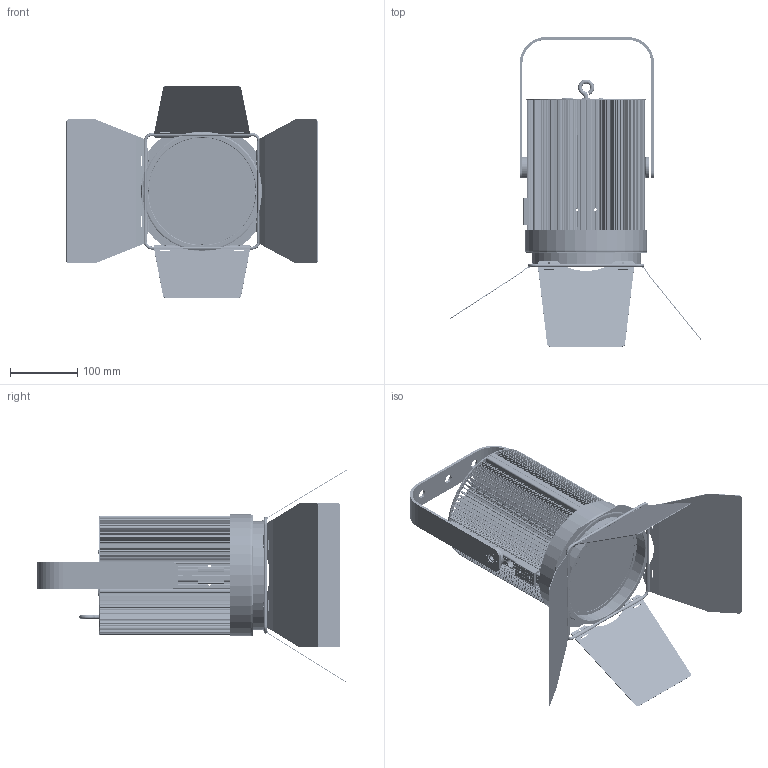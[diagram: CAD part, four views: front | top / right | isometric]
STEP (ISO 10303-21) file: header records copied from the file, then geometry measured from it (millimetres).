
FILE_DESCRIPTION (( 'STEP AP214' ), '1' );
FILE_NAME ('atmos 100t.STEP', '2025-04-02T00:52:14', ( '' ), ( '' ), 'SwSTEP 2.0', 'SolidWorks 2023', '' );
FILE_SCHEMA (( 'AUTOMOTIVE_DESIGN' ));
Length unit declared in the file: millimetre
Products named in the file (31): M3X4-0001^200W0001_ASM_CD-B_ASM_cd-b0626_asm(2)_cd-b0626_asm; 200W0001_ASM^CD-B_ASM_cd-b0626_asm(2)_cd-b0626_asm; 10001^200W0001_ASM_CD-B_ASM_cd-b0626_asm(2)_cd-b0626_asm; 0002^CD-B_ASM_cd-b0626_asm(2)_cd-b0626_asm; ZH-2__A___1^ZHZ-100__ASM_1_ASM_ZHZ-100__ASM_ASM_CD-B_ASM_cd-b0626_asm(2)_cd-b0626_asm; CL-TS_^CD-B_ASM_cd-b0626_asm(2)_cd-b0626_asm; M3X10-0001^200W0001_ASM_CD-B_ASM_cd-b0626_asm(2)_cd-b0626_asm; KL-X__^CD-B_ASM_cd-b0626_asm(2)_cd-b0626_asm; QGB-4_^CD-B_ASM_cd-b0626_asm(2)_cd-b0626_asm; ZHZ-100__ASM_1_ASM^ZHZ-100__ASM_ASM_CD-B_ASM_cd-b0626_asm(2)_cd-b0626_asm; K3-W_^CD-B_ASM_cd-b0626_asm(2)_cd-b0626_asm; DGB-Q__A___1^ZHZ-100__ASM_1_ASM_ZHZ-100__ASM_ASM_CD-B_ASM_cd-b0626_asm(2)_cd-b0626_asm; HK-18_^CD-B_ASM_cd-b0626_asm(2)_cd-b0626_asm; AA2_2_^CD-B_ASM_cd-b0626_asm(2)_cd-b0626_asm; 000-0^CD-B_ASM_cd-b0626_asm(2)_cd-b0626_asm; cd-b0626_asm(2)^cd-b0626_asm; LZ-48_^CD-B_ASM_cd-b0626_asm(2)_cd-b0626_asm; ZHZ-100__ASM_ASM^CD-B_ASM_cd-b0626_asm(2)_cd-b0626_asm; FZ-D__A___1^ZHZ-100__ASM_1_ASM_ZHZ-100__ASM_ASM_CD-B_ASM_cd-b0626_asm(2)_cd-b0626_asm; M3X12-0001^200W0001_ASM_CD-B_ASM_cd-b0626_asm(2)_cd-b0626_asm; TISHOU2^CD-B_ASM_cd-b0626_asm(2)_cd-b0626_asm; DT-0_^CD-B_ASM_cd-b0626_asm(2)_cd-b0626_asm; DH-6^CD-B_ASM_cd-b0626_asm(2)_cd-b0626_asm; CD-B_ASM^cd-b0626_asm(2)_cd-b0626_asm; ZH-3__A___1^ZHZ-100__ASM_1_ASM_ZHZ-100__ASM_ASM_CD-B_ASM_cd-b0626_asm(2)_cd-b0626_asm; LZ-24^CD-B_ASM_cd-b0626_asm(2)_cd-b0626_asm; eBom-FreeParts; TJ-2_^CD-B_ASM_cd-b0626_asm(2)_cd-b0626_asm; JQ-44^CD-B_ASM_cd-b0626_asm(2)_cd-b0626_asm; atmos 100t; 000^CD-B_ASM_cd-b0626_asm(2)_cd-b0626_asm
Assembly tree (44 placements, depth 6):
  eBom-FreeParts
  atmos 100t
    cd-b0626_asm(2)^cd-b0626_asm
      CD-B_ASM^cd-b0626_asm(2)_cd-b0626_asm
        ZHZ-100__ASM_ASM^CD-B_ASM_cd-b0626_asm(2)_cd-b0626_asm
          ZHZ-100__ASM_1_ASM^ZHZ-100__ASM_ASM_CD-B_ASM_cd-b0626_asm(2)_cd-b0626_asm
            DGB-Q__A___1^ZHZ-100__ASM_1_ASM_ZHZ-100__ASM_ASM_CD-B_ASM_cd-b0626_asm(2)_cd-b0626_asm
            FZ-D__A___1^ZHZ-100__ASM_1_ASM_ZHZ-100__ASM_ASM_CD-B_ASM_cd-b0626_asm(2)_cd-b0626_asm
            ZH-2__A___1^ZHZ-100__ASM_1_ASM_ZHZ-100__ASM_ASM_CD-B_ASM_cd-b0626_asm(2)_cd-b0626_asm  x2
            ZH-3__A___1^ZHZ-100__ASM_1_ASM_ZHZ-100__ASM_ASM_CD-B_ASM_cd-b0626_asm(2)_cd-b0626_asm  x2
        200W0001_ASM^CD-B_ASM_cd-b0626_asm(2)_cd-b0626_asm
          M3X4-0001^200W0001_ASM_CD-B_ASM_cd-b0626_asm(2)_cd-b0626_asm  x4
          10001^200W0001_ASM_CD-B_ASM_cd-b0626_asm(2)_cd-b0626_asm
          M3X12-0001^200W0001_ASM_CD-B_ASM_cd-b0626_asm(2)_cd-b0626_asm
          M3X10-0001^200W0001_ASM_CD-B_ASM_cd-b0626_asm(2)_cd-b0626_asm
        DT-0_^CD-B_ASM_cd-b0626_asm(2)_cd-b0626_asm  x2
        000^CD-B_ASM_cd-b0626_asm(2)_cd-b0626_asm
        AA2_2_^CD-B_ASM_cd-b0626_asm(2)_cd-b0626_asm
        KL-X__^CD-B_ASM_cd-b0626_asm(2)_cd-b0626_asm
        LZ-48_^CD-B_ASM_cd-b0626_asm(2)_cd-b0626_asm  x2
        LZ-24^CD-B_ASM_cd-b0626_asm(2)_cd-b0626_asm  x4
        TJ-2_^CD-B_ASM_cd-b0626_asm(2)_cd-b0626_asm
        QGB-4_^CD-B_ASM_cd-b0626_asm(2)_cd-b0626_asm
        K3-W_^CD-B_ASM_cd-b0626_asm(2)_cd-b0626_asm  x2
        CL-TS_^CD-B_ASM_cd-b0626_asm(2)_cd-b0626_asm  x2
        JQ-44^CD-B_ASM_cd-b0626_asm(2)_cd-b0626_asm
        DH-6^CD-B_ASM_cd-b0626_asm(2)_cd-b0626_asm
        HK-18_^CD-B_ASM_cd-b0626_asm(2)_cd-b0626_asm
        TISHOU2^CD-B_ASM_cd-b0626_asm(2)_cd-b0626_asm
        0002^CD-B_ASM_cd-b0626_asm(2)_cd-b0626_asm
        000-0^CD-B_ASM_cd-b0626_asm(2)_cd-b0626_asm  x4
Bounding box: 374.5 x 461.49 x 316.34 mm (x, y, z)
Volume: 1581151.9 mm3; surface area: 1616769.5 mm2
Topology: 38 solids, 40 shells, 9155 faces, 26949 edges, 17873 vertices
Faces by surface type: cylinder 4749, plane 4107, cone 140, bspline 86, torus 65, sphere 8
Entity records: 183588 total; most frequent: CARTESIAN_POINT 43307, DIRECTION 29680, ORIENTED_EDGE 29666, EDGE_CURVE 14835, AXIS2_PLACEMENT_3D 10298, VERTEX_POINT 9815, LINE 9084, VECTOR 9084
